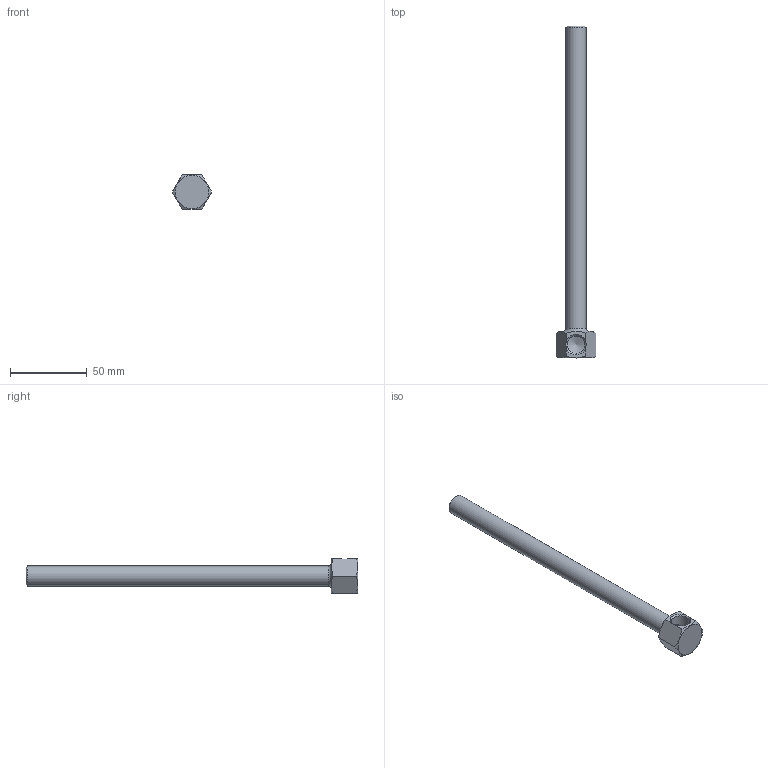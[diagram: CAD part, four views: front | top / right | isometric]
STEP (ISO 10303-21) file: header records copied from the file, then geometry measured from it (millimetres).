
FILE_DESCRIPTION(/* description */ (''),/* implementation_level */ '2;1');
FILE_NAME(/* name */ 'C:/Users/drich/Desktop/14B-8-1_2 v1.step',/* time_stamp */ '2019-12-29T15:18:50-06:00',/* author */ (''),/* organization */ (''),/* preprocessor_version */ 'ST-DEVELOPER v18',/* originating_system */ 'Autodesk Translation Framework v8.12.0.6',/* authorisation */ '');
FILE_SCHEMA (('AUTOMOTIVE_DESIGN { 1 0 10303 214 3 1 1 }'));
Length unit declared in the file: inch
Products named in the file (1): 14B-8-1_2
Bounding box: 25.66 x 215.9 x 22.23 mm (x, y, z)
Volume: 20150.4 mm3; surface area: 16166.1 mm2
Topology: 1 solids, 1 shells, 20 faces, 55 edges, 36 vertices
Faces by surface type: plane 10, cone 6, cylinder 3, torus 1
Full cylindrical faces by diameter (mm): 8.712 x1, 11.668 x1, 13.032 x1
Entity records: 710 total; most frequent: CARTESIAN_POINT 197, ORIENTED_EDGE 108, DIRECTION 93, EDGE_CURVE 54, AXIS2_PLACEMENT_3D 38, VERTEX_POINT 36, EDGE_LOOP 22, FACE_OUTER_BOUND 20
